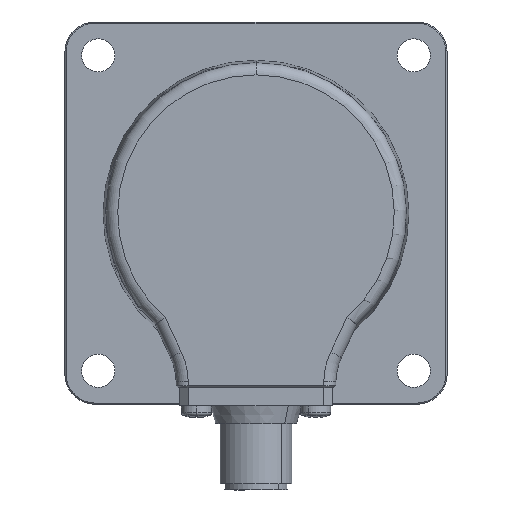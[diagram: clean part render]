
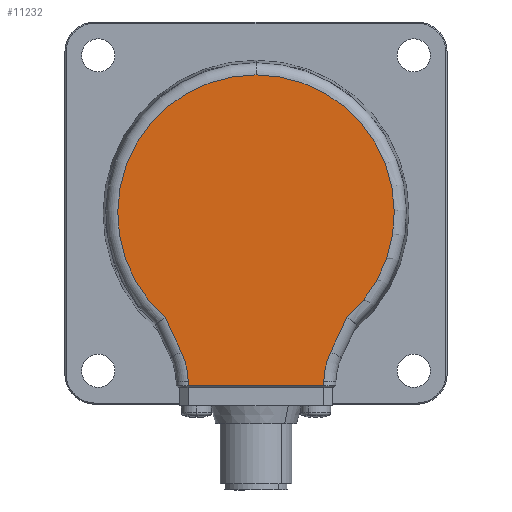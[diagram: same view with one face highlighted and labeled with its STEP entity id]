
A CAD part, left-side view. The second image highlights one B-rep face of the part: STEP entity #11232.
In plain terms, the highlighted planar face has unit normal (-1, 0, 0).
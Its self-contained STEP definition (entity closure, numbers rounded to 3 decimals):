
#2783 = CARTESIAN_POINT ( 'NONE',  ( -21., 11.268, -27.974 ) ) ;
#2803 = DIRECTION ( 'NONE',  ( 0., 0., 1. ) ) ;
#2804 = DIRECTION ( 'NONE',  ( 1., 0., 0. ) ) ;
#2805 = AXIS2_PLACEMENT_3D ( 'NONE', #2811, #2804, #2803 ) ;
#2806 = CIRCLE ( 'NONE', #2805, 12. ) ;
#2811 = CARTESIAN_POINT ( 'NONE',  ( -21., -23.266, -28.183 ) ) ;
#2832 = DIRECTION ( 'NONE',  ( 0., -0.017, -1. ) ) ;
#2833 = VECTOR ( 'NONE', #2832, 1000. ) ;
#2834 = CARTESIAN_POINT ( 'NONE',  ( -21., 11.752, -0.205 ) ) ;
#2840 = LINE ( 'NONE', #2834, #2833 ) ;
#2906 = FACE_OUTER_BOUND ( 'NONE', #11236, .T. ) ;
#2950 = DIRECTION ( 'NONE',  ( 0., 0., 1. ) ) ;
#2951 = DIRECTION ( 'NONE',  ( 1., 0., 0. ) ) ;
#2952 = CARTESIAN_POINT ( 'NONE',  ( -21., 0., 0. ) ) ;
#2953 = AXIS2_PLACEMENT_3D ( 'NONE', #2952, #2951, #2950 ) ;
#2954 = PLANE ( 'NONE',  #2953 ) ;
#6220 = CARTESIAN_POINT ( 'NONE',  ( -21., 11.255, -28.695 ) ) ;
#6263 = CARTESIAN_POINT ( 'NONE',  ( -21., 15.091, -17.32 ) ) ;
#6264 = CARTESIAN_POINT ( 'NONE',  ( -21., 0., 22.972 ) ) ;
#6265 = DIRECTION ( 'NONE',  ( 0., 0., 1. ) ) ;
#6266 = DIRECTION ( 'NONE',  ( -1., 0., 0. ) ) ;
#6267 = CARTESIAN_POINT ( 'NONE',  ( -21., 0., 0. ) ) ;
#6268 = AXIS2_PLACEMENT_3D ( 'NONE', #6267, #6266, #6265 ) ;
#6269 = CIRCLE ( 'NONE', #6268, 22.972 ) ;
#6383 = CARTESIAN_POINT ( 'NONE',  ( -21., -12.39, -23.112 ) ) ;
#6457 = DIRECTION ( 'NONE',  ( 0., -0.017, 1. ) ) ;
#6458 = VECTOR ( 'NONE', #6457, 1000. ) ;
#6459 = CARTESIAN_POINT ( 'NONE',  ( -21., -11.752, -0.205 ) ) ;
#6460 = LINE ( 'NONE', #6459, #6458 ) ;
#7113 = CARTESIAN_POINT ( 'NONE',  ( -21., -11.268, -27.974 ) ) ;
#7517 = CARTESIAN_POINT ( 'NONE',  ( -21., -14.953, -17.615 ) ) ;
#7519 = LINE ( 'NONE', #7517, #7522 ) ;
#7521 = DIRECTION ( 'NONE',  ( 0., -0.423, 0.906 ) ) ;
#7522 = VECTOR ( 'NONE', #7521, 1000. ) ;
#7523 = CARTESIAN_POINT ( 'NONE',  ( -21., -15.091, -17.32 ) ) ;
#7524 = DIRECTION ( 'NONE',  ( 0., -0.423, -0.906 ) ) ;
#7525 = VECTOR ( 'NONE', #7524, 1000. ) ;
#7526 = CARTESIAN_POINT ( 'NONE',  ( -21., 12.39, -23.112 ) ) ;
#7527 = LINE ( 'NONE', #7526, #7525 ) ;
#7528 = CARTESIAN_POINT ( 'NONE',  ( -21., 12.39, -23.112 ) ) ;
#7616 = DIRECTION ( 'NONE',  ( 0., 0., 1. ) ) ;
#7617 = DIRECTION ( 'NONE',  ( -1., 0., 0. ) ) ;
#7618 = CARTESIAN_POINT ( 'NONE',  ( -21., 0., 0. ) ) ;
#7619 = AXIS2_PLACEMENT_3D ( 'NONE', #7618, #7617, #7616 ) ;
#7620 = CIRCLE ( 'NONE', #7619, 22.972 ) ;
#7646 = DIRECTION ( 'NONE',  ( 0., -1., 0. ) ) ;
#7647 = VECTOR ( 'NONE', #7646, 1000. ) ;
#7648 = CARTESIAN_POINT ( 'NONE',  ( -21., -11.25, -28.695 ) ) ;
#7649 = LINE ( 'NONE', #7648, #7647 ) ;
#7655 = CARTESIAN_POINT ( 'NONE',  ( -21., -11.255, -28.695 ) ) ;
#7731 = DIRECTION ( 'NONE',  ( 1., 0., 0. ) ) ;
#7732 = CARTESIAN_POINT ( 'NONE',  ( -21., 23.266, -28.183 ) ) ;
#7733 = AXIS2_PLACEMENT_3D ( 'NONE', #7732, #7731, #7766 ) ;
#7734 = CIRCLE ( 'NONE', #7733, 12. ) ;
#7766 = DIRECTION ( 'NONE',  ( 0., 0., 1. ) ) ;
#10804 = VERTEX_POINT ( 'NONE', #7113 ) ;
#10939 = VERTEX_POINT ( 'NONE', #7655 ) ;
#10941 = EDGE_CURVE ( 'NONE', #11106, #10939, #7649, .T. ) ;
#10967 = VERTEX_POINT ( 'NONE', #7528 ) ;
#10969 = EDGE_CURVE ( 'NONE', #11123, #10967, #7527, .T. ) ;
#10974 = VERTEX_POINT ( 'NONE', #7523 ) ;
#10976 = EDGE_CURVE ( 'NONE', #11165, #10974, #7519, .T. ) ;
#10983 = EDGE_CURVE ( 'NONE', #10974, #11122, #7620, .T. ) ;
#11000 = EDGE_CURVE ( 'NONE', #10967, #11181, #7734, .T. ) ;
#11106 = VERTEX_POINT ( 'NONE', #6220 ) ;
#11121 = EDGE_CURVE ( 'NONE', #11122, #11123, #6269, .T. ) ;
#11122 = VERTEX_POINT ( 'NONE', #6264 ) ;
#11123 = VERTEX_POINT ( 'NONE', #6263 ) ;
#11165 = VERTEX_POINT ( 'NONE', #6383 ) ;
#11181 = VERTEX_POINT ( 'NONE', #2783 ) ;
#11193 = EDGE_CURVE ( 'NONE', #10804, #11165, #2806, .T. ) ;
#11198 = EDGE_CURVE ( 'NONE', #11181, #11106, #2840, .T. ) ;
#11214 = ORIENTED_EDGE ( 'NONE', *, *, #10941, .T. ) ;
#11215 = ORIENTED_EDGE ( 'NONE', *, *, #11000, .T. ) ;
#11222 = ORIENTED_EDGE ( 'NONE', *, *, #10976, .T. ) ;
#11223 = ORIENTED_EDGE ( 'NONE', *, *, #10983, .T. ) ;
#11225 = ORIENTED_EDGE ( 'NONE', *, *, #11198, .T. ) ;
#11232 = ADVANCED_FACE ( 'NONE', ( #2906 ), #2954, .F. ) ;
#11236 = EDGE_LOOP ( 'NONE', ( #11225, #11214, #11295, #11260, #11222, #11223, #11285, #11263, #11215 ) ) ;
#11254 = EDGE_CURVE ( 'NONE', #10939, #10804, #6460, .T. ) ;
#11260 = ORIENTED_EDGE ( 'NONE', *, *, #11193, .T. ) ;
#11263 = ORIENTED_EDGE ( 'NONE', *, *, #10969, .T. ) ;
#11285 = ORIENTED_EDGE ( 'NONE', *, *, #11121, .T. ) ;
#11295 = ORIENTED_EDGE ( 'NONE', *, *, #11254, .T. ) ;
